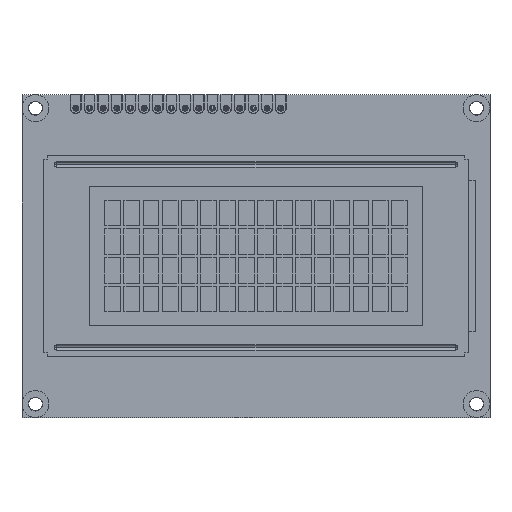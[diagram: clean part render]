
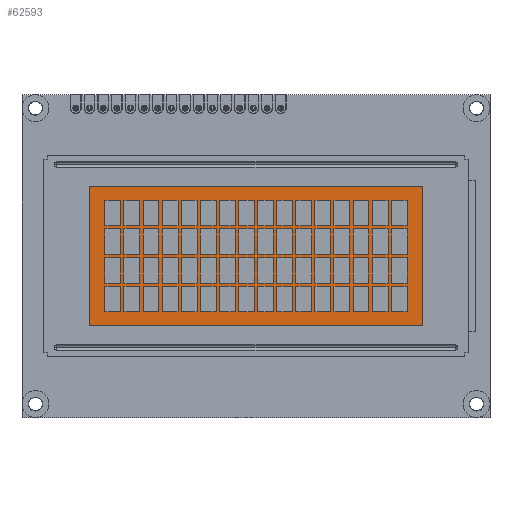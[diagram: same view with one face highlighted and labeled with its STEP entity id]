
A CAD part, top view. The second image highlights one B-rep face of the part: STEP entity #62593.
In plain terms, the highlighted planar face has unit normal (0, 0, 1).
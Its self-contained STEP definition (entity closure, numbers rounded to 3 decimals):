
#62279 = VERTEX_POINT('',#62280);
#62280 = CARTESIAN_POINT('',(-31.828,13.421,9.9));
#62287 = PLANE('',#62288);
#62288 = AXIS2_PLACEMENT_3D('',#62289,#62290,#62291);
#62289 = CARTESIAN_POINT('',(-31.828,13.421,9.65));
#62290 = DIRECTION('',(0.,1.,0.));
#62291 = DIRECTION('',(1.,0.,0.));
#62299 = PLANE('',#62300);
#62300 = AXIS2_PLACEMENT_3D('',#62301,#62302,#62303);
#62301 = CARTESIAN_POINT('',(-31.828,-13.765,9.65));
#62302 = DIRECTION('',(-1.,0.,0.));
#62303 = DIRECTION('',(0.,1.,0.));
#62311 = EDGE_CURVE('',#62279,#62312,#62314,.T.);
#62312 = VERTEX_POINT('',#62313);
#62313 = CARTESIAN_POINT('',(31.545,13.421,9.9));
#62314 = SURFACE_CURVE('',#62315,(#62319,#62326),.PCURVE_S1.);
#62315 = LINE('',#62316,#62317);
#62316 = CARTESIAN_POINT('',(-31.828,13.421,9.9));
#62317 = VECTOR('',#62318,1.);
#62318 = DIRECTION('',(1.,0.,0.));
#62319 = PCURVE('',#62287,#62320);
#62320 = DEFINITIONAL_REPRESENTATION('',(#62321),#62325);
#62321 = LINE('',#62322,#62323);
#62322 = CARTESIAN_POINT('',(0.,-0.25));
#62323 = VECTOR('',#62324,1.);
#62324 = DIRECTION('',(1.,0.));
#62325 = ( GEOMETRIC_REPRESENTATION_CONTEXT(2) 
PARAMETRIC_REPRESENTATION_CONTEXT() REPRESENTATION_CONTEXT('2D SPACE',''
  ) );
#62326 = PCURVE('',#62327,#62332);
#62327 = PLANE('',#62328);
#62328 = AXIS2_PLACEMENT_3D('',#62329,#62330,#62331);
#62329 = CARTESIAN_POINT('',(-0.141,-0.172,9.9));
#62330 = DIRECTION('',(0.,0.,-1.));
#62331 = DIRECTION('',(0.,-1.,0.));
#62332 = DEFINITIONAL_REPRESENTATION('',(#62333),#62337);
#62333 = LINE('',#62334,#62335);
#62334 = CARTESIAN_POINT('',(-13.593,31.687));
#62335 = VECTOR('',#62336,1.);
#62336 = DIRECTION('',(0.,-1.));
#62337 = ( GEOMETRIC_REPRESENTATION_CONTEXT(2) 
PARAMETRIC_REPRESENTATION_CONTEXT() REPRESENTATION_CONTEXT('2D SPACE',''
  ) );
#62355 = PLANE('',#62356);
#62356 = AXIS2_PLACEMENT_3D('',#62357,#62358,#62359);
#62357 = CARTESIAN_POINT('',(31.545,13.421,9.65));
#62358 = DIRECTION('',(1.,0.,0.));
#62359 = DIRECTION('',(0.,-1.,0.));
#62397 = EDGE_CURVE('',#62312,#62398,#62400,.T.);
#62398 = VERTEX_POINT('',#62399);
#62399 = CARTESIAN_POINT('',(31.545,-13.765,9.9));
#62400 = SURFACE_CURVE('',#62401,(#62405,#62412),.PCURVE_S1.);
#62401 = LINE('',#62402,#62403);
#62402 = CARTESIAN_POINT('',(31.545,13.421,9.9));
#62403 = VECTOR('',#62404,1.);
#62404 = DIRECTION('',(0.,-1.,0.));
#62405 = PCURVE('',#62355,#62406);
#62406 = DEFINITIONAL_REPRESENTATION('',(#62407),#62411);
#62407 = LINE('',#62408,#62409);
#62408 = CARTESIAN_POINT('',(0.,-0.25));
#62409 = VECTOR('',#62410,1.);
#62410 = DIRECTION('',(1.,0.));
#62411 = ( GEOMETRIC_REPRESENTATION_CONTEXT(2) 
PARAMETRIC_REPRESENTATION_CONTEXT() REPRESENTATION_CONTEXT('2D SPACE',''
  ) );
#62412 = PCURVE('',#62327,#62413);
#62413 = DEFINITIONAL_REPRESENTATION('',(#62414),#62418);
#62414 = LINE('',#62415,#62416);
#62415 = CARTESIAN_POINT('',(-13.593,-31.687));
#62416 = VECTOR('',#62417,1.);
#62417 = DIRECTION('',(1.,0.));
#62418 = ( GEOMETRIC_REPRESENTATION_CONTEXT(2) 
PARAMETRIC_REPRESENTATION_CONTEXT() REPRESENTATION_CONTEXT('2D SPACE',''
  ) );
#62436 = PLANE('',#62437);
#62437 = AXIS2_PLACEMENT_3D('',#62438,#62439,#62440);
#62438 = CARTESIAN_POINT('',(31.545,-13.765,9.65));
#62439 = DIRECTION('',(0.,-1.,0.));
#62440 = DIRECTION('',(-1.,0.,0.));
#62473 = EDGE_CURVE('',#62398,#62474,#62476,.T.);
#62474 = VERTEX_POINT('',#62475);
#62475 = CARTESIAN_POINT('',(-31.828,-13.765,9.9));
#62476 = SURFACE_CURVE('',#62477,(#62481,#62488),.PCURVE_S1.);
#62477 = LINE('',#62478,#62479);
#62478 = CARTESIAN_POINT('',(31.545,-13.765,9.9));
#62479 = VECTOR('',#62480,1.);
#62480 = DIRECTION('',(-1.,0.,0.));
#62481 = PCURVE('',#62436,#62482);
#62482 = DEFINITIONAL_REPRESENTATION('',(#62483),#62487);
#62483 = LINE('',#62484,#62485);
#62484 = CARTESIAN_POINT('',(0.,-0.25));
#62485 = VECTOR('',#62486,1.);
#62486 = DIRECTION('',(1.,0.));
#62487 = ( GEOMETRIC_REPRESENTATION_CONTEXT(2) 
PARAMETRIC_REPRESENTATION_CONTEXT() REPRESENTATION_CONTEXT('2D SPACE',''
  ) );
#62488 = PCURVE('',#62327,#62489);
#62489 = DEFINITIONAL_REPRESENTATION('',(#62490),#62494);
#62490 = LINE('',#62491,#62492);
#62491 = CARTESIAN_POINT('',(13.593,-31.687));
#62492 = VECTOR('',#62493,1.);
#62493 = DIRECTION('',(0.,1.));
#62494 = ( GEOMETRIC_REPRESENTATION_CONTEXT(2) 
PARAMETRIC_REPRESENTATION_CONTEXT() REPRESENTATION_CONTEXT('2D SPACE',''
  ) );
#62544 = EDGE_CURVE('',#62474,#62279,#62545,.T.);
#62545 = SURFACE_CURVE('',#62546,(#62550,#62557),.PCURVE_S1.);
#62546 = LINE('',#62547,#62548);
#62547 = CARTESIAN_POINT('',(-31.828,-13.765,9.9));
#62548 = VECTOR('',#62549,1.);
#62549 = DIRECTION('',(0.,1.,0.));
#62550 = PCURVE('',#62299,#62551);
#62551 = DEFINITIONAL_REPRESENTATION('',(#62552),#62556);
#62552 = LINE('',#62553,#62554);
#62553 = CARTESIAN_POINT('',(0.,-0.25));
#62554 = VECTOR('',#62555,1.);
#62555 = DIRECTION('',(1.,0.));
#62556 = ( GEOMETRIC_REPRESENTATION_CONTEXT(2) 
PARAMETRIC_REPRESENTATION_CONTEXT() REPRESENTATION_CONTEXT('2D SPACE',''
  ) );
#62557 = PCURVE('',#62327,#62558);
#62558 = DEFINITIONAL_REPRESENTATION('',(#62559),#62563);
#62559 = LINE('',#62560,#62561);
#62560 = CARTESIAN_POINT('',(13.593,31.687));
#62561 = VECTOR('',#62562,1.);
#62562 = DIRECTION('',(-1.,0.));
#62563 = ( GEOMETRIC_REPRESENTATION_CONTEXT(2) 
PARAMETRIC_REPRESENTATION_CONTEXT() REPRESENTATION_CONTEXT('2D SPACE',''
  ) );
#62593 = ADVANCED_FACE('',(#62594),#62327,.F.);
#62594 = FACE_BOUND('',#62595,.F.);
#62595 = EDGE_LOOP('',(#62596,#62597,#62598,#62599));
#62596 = ORIENTED_EDGE('',*,*,#62311,.T.);
#62597 = ORIENTED_EDGE('',*,*,#62397,.T.);
#62598 = ORIENTED_EDGE('',*,*,#62473,.T.);
#62599 = ORIENTED_EDGE('',*,*,#62544,.T.);
